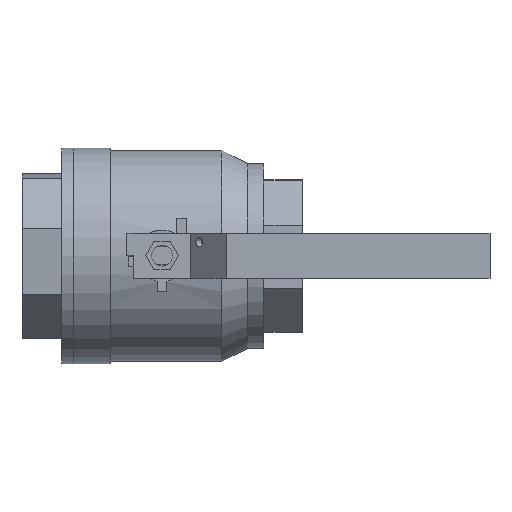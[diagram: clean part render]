
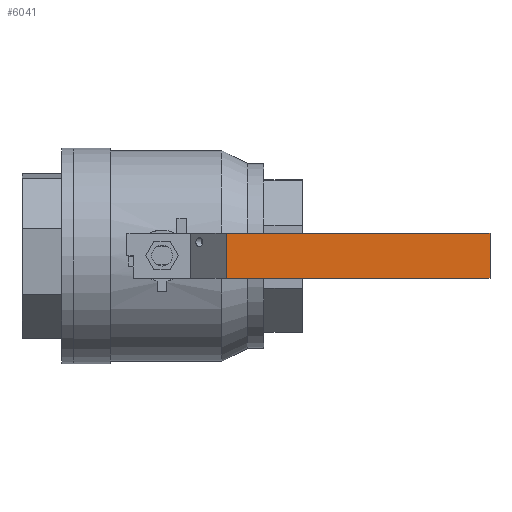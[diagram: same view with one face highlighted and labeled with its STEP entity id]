
A CAD part, top view. The second image highlights one B-rep face of the part: STEP entity #6041.
In plain terms, the highlighted planar face has unit normal (0, 0, 1).
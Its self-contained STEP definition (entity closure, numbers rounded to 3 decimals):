
#665 = PLANE('',#666);
#666 = AXIS2_PLACEMENT_3D('',#667,#668,#669);
#667 = CARTESIAN_POINT('',(7.075,-0.65,5.453));
#668 = DIRECTION('',(0.,1.,0.));
#669 = DIRECTION('',(0.,-0.,1.));
#693 = PLANE('',#694);
#694 = AXIS2_PLACEMENT_3D('',#695,#696,#697);
#695 = CARTESIAN_POINT('',(4.219,0.65,5.343));
#696 = DIRECTION('',(-0.707,0.,0.707));
#697 = DIRECTION('',(-0.707,0.,-0.707));
#721 = PLANE('',#722);
#722 = AXIS2_PLACEMENT_3D('',#723,#724,#725);
#723 = CARTESIAN_POINT('',(7.075,0.65,5.453));
#724 = DIRECTION('',(0.,1.,0.));
#725 = DIRECTION('',(0.,-0.,1.));
#5951 = PLANE('',#5952);
#5952 = AXIS2_PLACEMENT_3D('',#5953,#5954,#5955);
#5953 = CARTESIAN_POINT('',(12.318,0.65,5.687));
#5954 = DIRECTION('',(1.,0.,0.));
#5955 = DIRECTION('',(0.,0.,1.));
#5970 = VERTEX_POINT('',#5971);
#5971 = CARTESIAN_POINT('',(4.728,-0.65,5.852));
#5992 = EDGE_CURVE('',#5993,#5970,#5995,.T.);
#5993 = VERTEX_POINT('',#5994);
#5994 = CARTESIAN_POINT('',(4.728,0.65,5.852));
#5995 = SURFACE_CURVE('',#5996,(#6000,#6007),.PCURVE_S1.);
#5996 = LINE('',#5997,#5998);
#5997 = CARTESIAN_POINT('',(4.728,0.65,5.852));
#5998 = VECTOR('',#5999,1.);
#5999 = DIRECTION('',(0.,-1.,0.));
#6000 = PCURVE('',#693,#6001);
#6001 = DEFINITIONAL_REPRESENTATION('',(#6002),#6006);
#6002 = LINE('',#6003,#6004);
#6003 = CARTESIAN_POINT('',(-0.72,0.));
#6004 = VECTOR('',#6005,1.);
#6005 = DIRECTION('',(-0.,1.));
#6006 = ( GEOMETRIC_REPRESENTATION_CONTEXT(2) 
PARAMETRIC_REPRESENTATION_CONTEXT() REPRESENTATION_CONTEXT('2D SPACE',''
  ) );
#6007 = PCURVE('',#6008,#6013);
#6008 = PLANE('',#6009);
#6009 = AXIS2_PLACEMENT_3D('',#6010,#6011,#6012);
#6010 = CARTESIAN_POINT('',(8.523,0.65,5.852));
#6011 = DIRECTION('',(0.,0.,1.));
#6012 = DIRECTION('',(-1.,0.,0.));
#6013 = DEFINITIONAL_REPRESENTATION('',(#6014),#6018);
#6014 = LINE('',#6015,#6016);
#6015 = CARTESIAN_POINT('',(3.795,0.));
#6016 = VECTOR('',#6017,1.);
#6017 = DIRECTION('',(0.,1.));
#6018 = ( GEOMETRIC_REPRESENTATION_CONTEXT(2) 
PARAMETRIC_REPRESENTATION_CONTEXT() REPRESENTATION_CONTEXT('2D SPACE',''
  ) );
#6041 = ADVANCED_FACE('',(#6042),#6008,.T.);
#6042 = FACE_BOUND('',#6043,.T.);
#6043 = EDGE_LOOP('',(#6044,#6067,#6090,#6111));
#6044 = ORIENTED_EDGE('',*,*,#6045,.T.);
#6045 = EDGE_CURVE('',#5970,#6046,#6048,.T.);
#6046 = VERTEX_POINT('',#6047);
#6047 = CARTESIAN_POINT('',(12.318,-0.65,5.852));
#6048 = SURFACE_CURVE('',#6049,(#6053,#6060),.PCURVE_S1.);
#6049 = LINE('',#6050,#6051);
#6050 = CARTESIAN_POINT('',(4.728,-0.65,5.852));
#6051 = VECTOR('',#6052,1.);
#6052 = DIRECTION('',(1.,0.,0.));
#6053 = PCURVE('',#6008,#6054);
#6054 = DEFINITIONAL_REPRESENTATION('',(#6055),#6059);
#6055 = LINE('',#6056,#6057);
#6056 = CARTESIAN_POINT('',(3.795,1.3));
#6057 = VECTOR('',#6058,1.);
#6058 = DIRECTION('',(-1.,0.));
#6059 = ( GEOMETRIC_REPRESENTATION_CONTEXT(2) 
PARAMETRIC_REPRESENTATION_CONTEXT() REPRESENTATION_CONTEXT('2D SPACE',''
  ) );
#6060 = PCURVE('',#665,#6061);
#6061 = DEFINITIONAL_REPRESENTATION('',(#6062),#6066);
#6062 = LINE('',#6063,#6064);
#6063 = CARTESIAN_POINT('',(0.399,-2.347));
#6064 = VECTOR('',#6065,1.);
#6065 = DIRECTION('',(0.,1.));
#6066 = ( GEOMETRIC_REPRESENTATION_CONTEXT(2) 
PARAMETRIC_REPRESENTATION_CONTEXT() REPRESENTATION_CONTEXT('2D SPACE',''
  ) );
#6067 = ORIENTED_EDGE('',*,*,#6068,.F.);
#6068 = EDGE_CURVE('',#6069,#6046,#6071,.T.);
#6069 = VERTEX_POINT('',#6070);
#6070 = CARTESIAN_POINT('',(12.318,0.65,5.852));
#6071 = SURFACE_CURVE('',#6072,(#6076,#6083),.PCURVE_S1.);
#6072 = LINE('',#6073,#6074);
#6073 = CARTESIAN_POINT('',(12.318,0.65,5.852));
#6074 = VECTOR('',#6075,1.);
#6075 = DIRECTION('',(0.,-1.,0.));
#6076 = PCURVE('',#6008,#6077);
#6077 = DEFINITIONAL_REPRESENTATION('',(#6078),#6082);
#6078 = LINE('',#6079,#6080);
#6079 = CARTESIAN_POINT('',(-3.795,0.));
#6080 = VECTOR('',#6081,1.);
#6081 = DIRECTION('',(0.,1.));
#6082 = ( GEOMETRIC_REPRESENTATION_CONTEXT(2) 
PARAMETRIC_REPRESENTATION_CONTEXT() REPRESENTATION_CONTEXT('2D SPACE',''
  ) );
#6083 = PCURVE('',#5951,#6084);
#6084 = DEFINITIONAL_REPRESENTATION('',(#6085),#6089);
#6085 = LINE('',#6086,#6087);
#6086 = CARTESIAN_POINT('',(0.165,0.));
#6087 = VECTOR('',#6088,1.);
#6088 = DIRECTION('',(0.,1.));
#6089 = ( GEOMETRIC_REPRESENTATION_CONTEXT(2) 
PARAMETRIC_REPRESENTATION_CONTEXT() REPRESENTATION_CONTEXT('2D SPACE',''
  ) );
#6090 = ORIENTED_EDGE('',*,*,#6091,.F.);
#6091 = EDGE_CURVE('',#5993,#6069,#6092,.T.);
#6092 = SURFACE_CURVE('',#6093,(#6097,#6104),.PCURVE_S1.);
#6093 = LINE('',#6094,#6095);
#6094 = CARTESIAN_POINT('',(4.728,0.65,5.852));
#6095 = VECTOR('',#6096,1.);
#6096 = DIRECTION('',(1.,0.,0.));
#6097 = PCURVE('',#6008,#6098);
#6098 = DEFINITIONAL_REPRESENTATION('',(#6099),#6103);
#6099 = LINE('',#6100,#6101);
#6100 = CARTESIAN_POINT('',(3.795,0.));
#6101 = VECTOR('',#6102,1.);
#6102 = DIRECTION('',(-1.,0.));
#6103 = ( GEOMETRIC_REPRESENTATION_CONTEXT(2) 
PARAMETRIC_REPRESENTATION_CONTEXT() REPRESENTATION_CONTEXT('2D SPACE',''
  ) );
#6104 = PCURVE('',#721,#6105);
#6105 = DEFINITIONAL_REPRESENTATION('',(#6106),#6110);
#6106 = LINE('',#6107,#6108);
#6107 = CARTESIAN_POINT('',(0.399,-2.347));
#6108 = VECTOR('',#6109,1.);
#6109 = DIRECTION('',(0.,1.));
#6110 = ( GEOMETRIC_REPRESENTATION_CONTEXT(2) 
PARAMETRIC_REPRESENTATION_CONTEXT() REPRESENTATION_CONTEXT('2D SPACE',''
  ) );
#6111 = ORIENTED_EDGE('',*,*,#5992,.T.);
